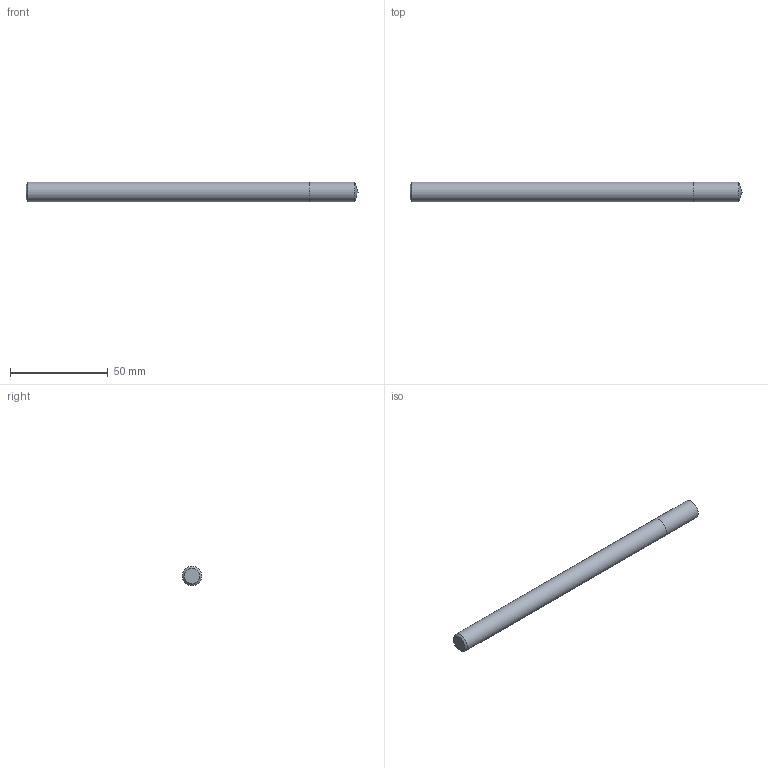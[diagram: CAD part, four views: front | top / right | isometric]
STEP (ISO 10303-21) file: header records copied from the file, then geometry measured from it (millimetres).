
FILE_DESCRIPTION (( 'STEP AP214' ), '1' );
FILE_NAME ('03-2238.STEP', '2022-02-07T07:07:28', ( 'USER' ), ( '' ), 'SwSTEP 2.0', 'SolidWorks 2018', '' );
FILE_SCHEMA (( 'AUTOMOTIVE_DESIGN' ));
Length unit declared in the file: millimetre
Products named in the file (1): 03-2238
Bounding box: 170 x 10 x 10 mm (x, y, z)
Volume: 13247 mm3; surface area: 5585.6 mm2
Topology: 2 solids, 2 shells, 7 faces, 11 edges, 7 vertices
Faces by surface type: plane 3, cylinder 2, cone 2
Full cylindrical faces by diameter (mm): 10 x2
Entity records: 189 total; most frequent: DIRECTION 26, CARTESIAN_POINT 18, AXIS2_PLACEMENT_3D 13, ORIENTED_EDGE 10, EDGE_LOOP 10, FACE_OUTER_BOUND 9, ADVANCED_FACE 7, UNCERTAINTY_MEASURE_WITH_UNIT 6
